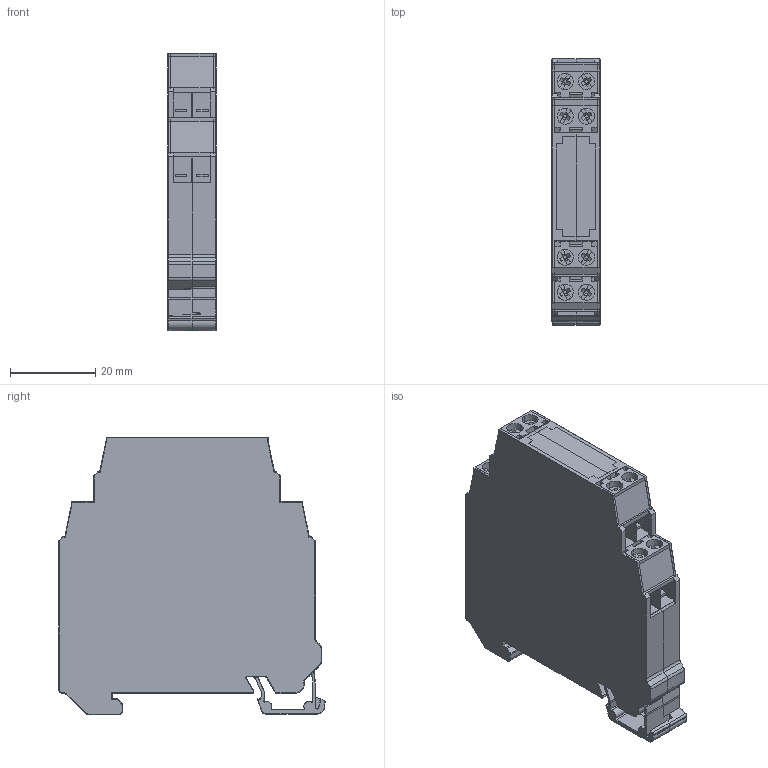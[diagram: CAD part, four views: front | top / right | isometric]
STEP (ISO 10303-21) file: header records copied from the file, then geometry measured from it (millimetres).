
FILE_DESCRIPTION (( 'STEP AP214' ), '1' );
FILE_NAME ('tiny.STEP', '2021-05-31T19:34:29', ( '' ), ( '' ), 'SwSTEP 2.0', 'SolidWorks 2021', '' );
FILE_SCHEMA (( 'AUTOMOTIVE_DESIGN' ));
Length unit declared in the file: millimetre
Products named in the file (4): tiny-hsng; ML252-5-S-LC-E; tiny; ML252-5-D-LC-E
Assembly tree (5 placements, depth 2):
  tiny
    tiny-hsng
    ML252-5-D-LC-E  x2
    ML252-5-S-LC-E  x2
Bounding box: 11.26 x 62.31 x 65 mm (x, y, z)
Volume: 35233.7 mm3; surface area: 22345.4 mm2
Topology: 6 solids, 6 shells, 1046 faces, 2785 edges, 1785 vertices
Faces by surface type: plane 749, cylinder 176, cone 52, bspline 39, torus 30
Entity records: 24591 total; most frequent: CARTESIAN_POINT 5836, ORIENTED_EDGE 4068, DIRECTION 3579, EDGE_CURVE 2034, VECTOR 1543, LINE 1543, VERTEX_POINT 1285, AXIS2_PLACEMENT_3D 1018
